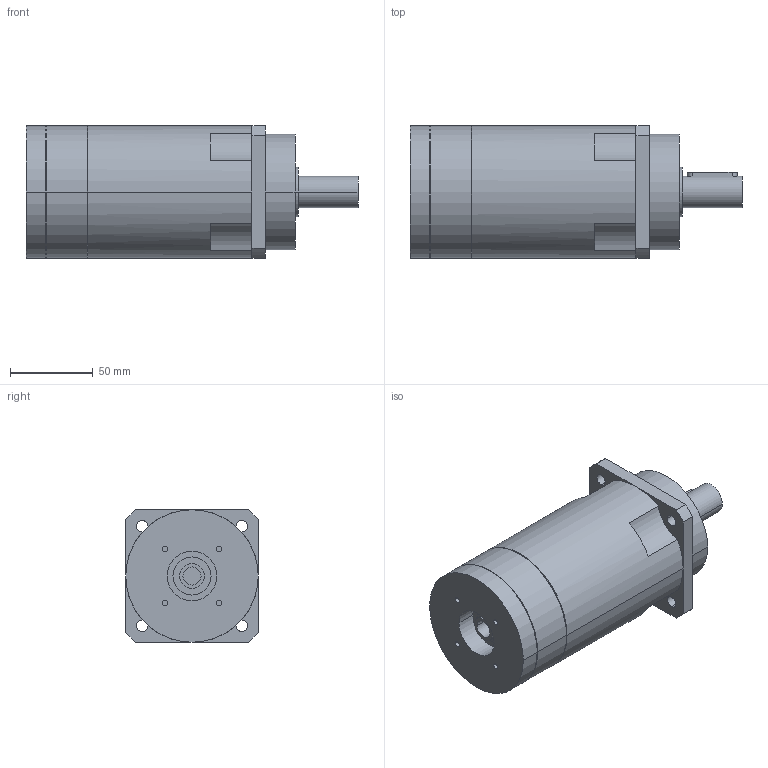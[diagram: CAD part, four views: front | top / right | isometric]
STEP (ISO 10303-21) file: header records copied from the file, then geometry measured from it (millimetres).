
FILE_DESCRIPTION(('CoCreate Modeling STEP Export'),'2;1');
FILE_NAME('GPR100_ig-48-64-80-100-120-144-180-216_19_B5_11_P24.stp','2014-08-26T11:53:08',(''),(''),'CoCreate Modeling STEP processor for AP214 (Solid Model)','CoCreate Modeling 16.00C 25-Feb-2009 (C) Parametric Technology GmbH','');
FILE_SCHEMA(('AUTOMOTIVE_DESIGN { 1 0 10303 214 1 1 1 1 }'));
Length unit declared in the file: millimetre
Products named in the file (2): GPR100_ig-48-64-80-100-120-144-180-216_19_B5_11_P24
Assembly tree (1 placements, depth 2):
  GPR100_ig-48-64-80-100-120-144-180-216_19_B5_11_P24
    GPR100_ig-48-64-80-100-120-144-180-216_19_B5_11_P24
Bounding box: 200.4 x 80 x 80 mm (x, y, z)
Volume: 797663.4 mm3; surface area: 60123.1 mm2
Topology: 1 solids, 1 shells, 84 faces, 216 edges, 146 vertices
Faces by surface type: cylinder 48, plane 30, cone 6
Entity records: 2299 total; most frequent: ORIENTED_EDGE 428, CARTESIAN_POINT 418, DIRECTION 336, EDGE_CURVE 214, VERTEX_POINT 146, AXIS2_PLACEMENT_3D 128, EDGE_LOOP 106, FACE_OUTER_BOUND 84
